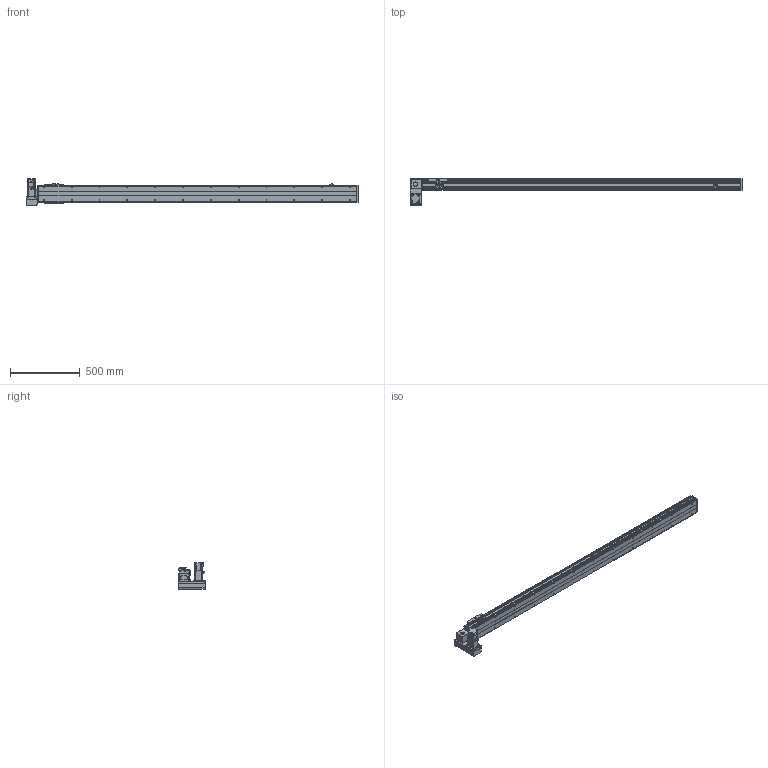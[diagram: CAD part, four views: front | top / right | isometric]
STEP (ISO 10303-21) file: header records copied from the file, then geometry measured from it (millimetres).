
FILE_DESCRIPTION( ( 'STEP AP214' ), '1' );
FILE_NAME( 'x:/temp/worker_6/temp/exporttempdir_3468_7_9JqMM/format_0/PBS120-P40-S2000-LD-T40-C1-N(0).stp', '2022-06-08T08:13:09', ( 'License CC BY-ND 4.0' ), ( 'CADENAS' ), ' ', 'PARTsolutions', ' ' );
FILE_SCHEMA( ( 'AUTOMOTIVE_DESIGN { 1 0 10303 214 1 1 1 1 }' ) );
Length unit declared in the file: millimetre
Products named in the file (7): PBS120-P40-S2000-LD-T40-C1-N(0); _PBS120-S2000()_body; _PBS120T-LD_motors; _T40-p1; _PBS120_sliser; _PBS120_plant; _PBS120_sensor
Assembly tree (8 placements, depth 2):
  PBS120-P40-S2000-LD-T40-C1-N(0)
    _PBS120-S2000()_body
    _PBS120T-LD_motors
    _T40-p1
    _PBS120_sliser
    _PBS120_plant
    _PBS120_sensor  x3
Bounding box: 2386 x 196 x 189.7 mm (x, y, z)
Volume: 9216353.3 mm3; surface area: 1881818.6 mm2
Topology: 8 solids, 8 shells, 852 faces, 2196 edges, 1411 vertices
Faces by surface type: plane 557, cylinder 237, cone 56, torus 2
Full cylindrical faces by diameter (mm): 2.459 x6, 3.242 x4, 4 x2, 4.134 x4, 4.5 x10, 4.917 x28, 5.5 x11, 6 x2, 6.6 x1, 7 x2, 8.5 x4, 9 x4, 12 x1, 14 x1, 30 x2, 40 x1, 50 x2
Entity records: 27996 total; most frequent: DIRECTION 3836, CARTESIAN_POINT 3749, ORIENTED_EDGE 3550, EDGE_CURVE 1775, AXIS2_PLACEMENT_3D 1304, LINE 1228, VECTOR 1228, VERTEX_POINT 1217
